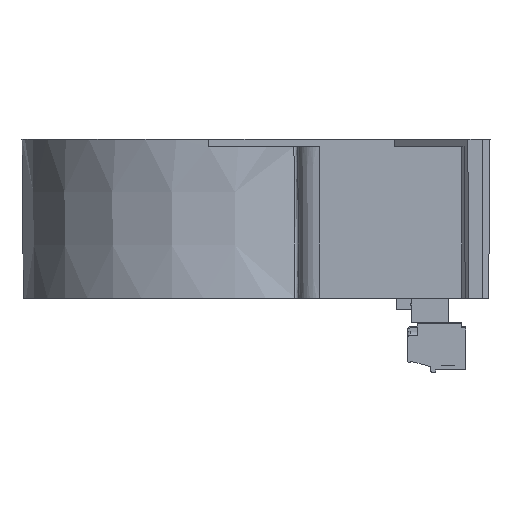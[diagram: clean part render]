
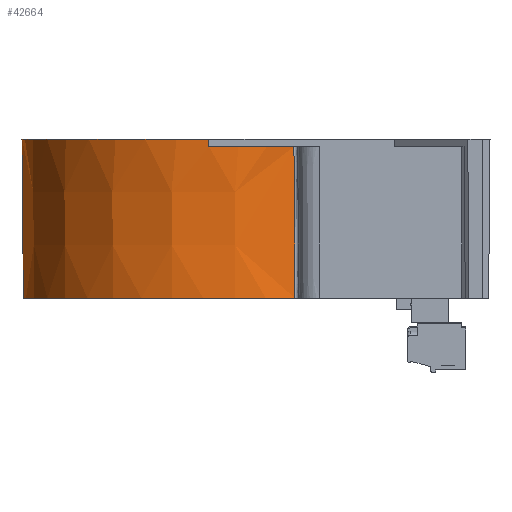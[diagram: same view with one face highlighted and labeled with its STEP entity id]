
A CAD part, left-side view. The second image highlights one B-rep face of the part: STEP entity #42664.
In plain terms, the highlighted conical face has half-angle 0.5 degrees and reference radius 35.5 mm.
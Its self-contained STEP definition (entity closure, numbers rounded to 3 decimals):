
#1102=CONICAL_SURFACE('',#45209,35.5,0.5);
#1534=B_SPLINE_CURVE_WITH_KNOTS('',3,(#61866,#61867,#61868,#61869),
 .UNSPECIFIED.,.F.,.F.,(4,4),(0.195,3.095),
 .UNSPECIFIED.);
#1776=CIRCLE('',#45131,35.515);
#1798=CIRCLE('',#45205,35.768);
#1800=CIRCLE('',#45210,35.781);
#3125=FACE_OUTER_BOUND('',#5605,.T.);
#5605=EDGE_LOOP('',(#28618,#28619,#28620,#28621,#28622,#28623));
#8549=LINE('',#61812,#13267);
#8555=LINE('',#61890,#13273);
#13267=VECTOR('',#49294,30.451);
#13273=VECTOR('',#49318,1.45);
#17794=VERTEX_POINT('',#61270);
#17795=VERTEX_POINT('',#61296);
#17968=VERTEX_POINT('',#61811);
#17971=VERTEX_POINT('',#61842);
#17974=VERTEX_POINT('',#61877);
#17977=VERTEX_POINT('',#61889);
#21946=EDGE_CURVE('',#17794,#17795,#1776,.T.);
#22168=EDGE_CURVE('',#17968,#17795,#8549,.F.);
#22173=EDGE_CURVE('',#17971,#17794,#1534,.T.);
#22177=EDGE_CURVE('',#17971,#17974,#1798,.T.);
#22182=EDGE_CURVE('',#17977,#17974,#8555,.F.);
#22183=EDGE_CURVE('',#17977,#17968,#1800,.F.);
#28618=ORIENTED_EDGE('',*,*,#22173,.F.);
#28619=ORIENTED_EDGE('',*,*,#22177,.T.);
#28620=ORIENTED_EDGE('',*,*,#22182,.F.);
#28621=ORIENTED_EDGE('',*,*,#22183,.T.);
#28622=ORIENTED_EDGE('',*,*,#22168,.T.);
#28623=ORIENTED_EDGE('',*,*,#21946,.F.);
#42664=ADVANCED_FACE('',(#3125),#1102,.T.);
#45131=AXIS2_PLACEMENT_3D('',#61297,#48961,#48962);
#45205=AXIS2_PLACEMENT_3D('',#61879,#49305,#49306);
#45209=AXIS2_PLACEMENT_3D('',#61888,#49316,#49317);
#45210=AXIS2_PLACEMENT_3D('',#61891,#49319,#49320);
#48961=DIRECTION('center_axis',(0.,0.,
-1.));
#48962=DIRECTION('ref_axis',(0.,1.,0.));
#49294=DIRECTION('',(0.,0.009,1.));
#49305=DIRECTION('center_axis',(0.,0.,
-1.));
#49306=DIRECTION('ref_axis',(0.,1.,0.));
#49316=DIRECTION('center_axis',(0.,0.,
1.));
#49317=DIRECTION('ref_axis',(0.,1.,0.));
#49318=DIRECTION('',(-0.009,0.,1.));
#49319=DIRECTION('center_axis',(0.,0.,
1.));
#49320=DIRECTION('ref_axis',(0.,1.,0.));
#61270=CARTESIAN_POINT('',(-34.355,-8.25,-15.223));
#61296=CARTESIAN_POINT('',(-2.891,43.737,-15.223));
#61297=CARTESIAN_POINT('Origin',(-2.891,8.221,-15.223));
#61811=CARTESIAN_POINT('',(-2.891,44.002,15.227));
#61812=CARTESIAN_POINT('',(-2.891,43.721,-16.973));
#61842=CARTESIAN_POINT('',(-34.744,-8.05,13.777));
#61866=CARTESIAN_POINT('Ctrl Pts',(-34.744,-8.05,13.777));
#61867=CARTESIAN_POINT('Ctrl Pts',(-34.617,-8.113,
4.11));
#61868=CARTESIAN_POINT('Ctrl Pts',(-34.488,-8.179,
-5.557));
#61869=CARTESIAN_POINT('Ctrl Pts',(-34.355,-8.25,
-15.223));
#61877=CARTESIAN_POINT('',(-38.659,8.221,13.777));
#61879=CARTESIAN_POINT('Origin',(-2.891,8.221,13.777));
#61888=CARTESIAN_POINT('Origin',(-2.891,8.221,-16.973));
#61889=CARTESIAN_POINT('',(-38.672,8.221,15.227));
#61890=CARTESIAN_POINT('',(-38.391,8.221,-16.973));
#61891=CARTESIAN_POINT('Origin',(-2.891,8.221,15.227));
